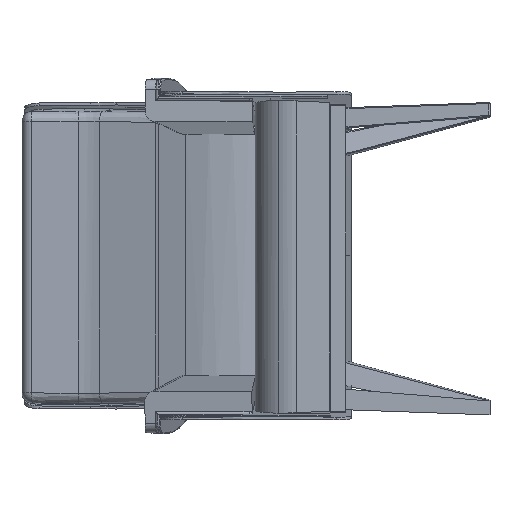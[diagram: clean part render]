
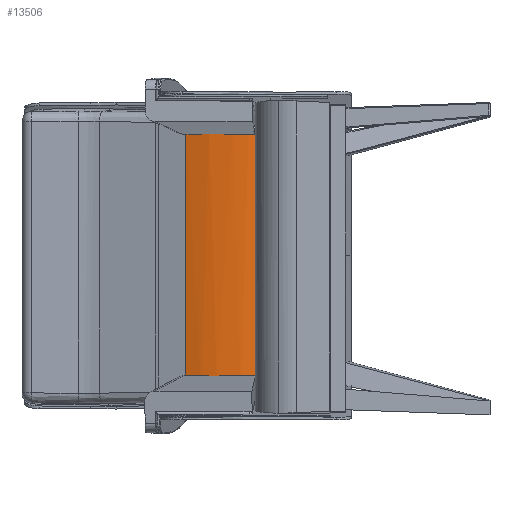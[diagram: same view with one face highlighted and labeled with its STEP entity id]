
A CAD part, left-side view. The second image highlights one B-rep face of the part: STEP entity #13506.
In plain terms, the highlighted cylindrical face has radius 279.532 mm (diameter 559.065 mm), a partial arc.
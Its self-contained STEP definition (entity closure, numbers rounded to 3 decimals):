
#13498=AXIS2_PLACEMENT_3D('Cylinder Axis2P3D',#13495,#13496,#13497) ;
#11797=CARTESIAN_POINT('Vertex',(-433.081,-301.999,-241.456)) ;
#11823=CARTESIAN_POINT('Vertex',(-433.081,-301.999,245.195)) ;
#11826=CARTESIAN_POINT('Line Origine',(-433.081,-301.999,1.87)) ;
#12248=CARTESIAN_POINT('Vertex',(-426.451,-149.278,260.934)) ;
#12777=CARTESIAN_POINT('Control Point',(-433.081,-301.999,-241.456)) ;
#12778=CARTESIAN_POINT('Control Point',(-438.174,-280.593,-244.584)) ;
#12779=CARTESIAN_POINT('Control Point',(-442.449,-243.822,-249.26)) ;
#12780=CARTESIAN_POINT('Control Point',(-438.194,-192.172,-254.282)) ;
#12781=CARTESIAN_POINT('Control Point',(-431.116,-163.338,-256.367)) ;
#12782=CARTESIAN_POINT('Control Point',(-426.451,-149.278,-257.195)) ;
#12783=CARTESIAN_POINT('Vertex',(-426.451,-149.278,-257.195)) ;
#13223=CARTESIAN_POINT('Line Origine',(-426.451,-149.278,1.87)) ;
#13480=CARTESIAN_POINT('Control Point',(-426.451,-149.278,260.934)) ;
#13481=CARTESIAN_POINT('Control Point',(-433.448,-170.367,259.693)) ;
#13482=CARTESIAN_POINT('Control Point',(-440.877,-206.859,256.816)) ;
#13483=CARTESIAN_POINT('Control Point',(-441.025,-258.605,251.164)) ;
#13484=CARTESIAN_POINT('Control Point',(-436.476,-287.728,247.28)) ;
#13485=CARTESIAN_POINT('Control Point',(-433.081,-301.999,245.195)) ;
#13495=CARTESIAN_POINT('Axis2P3D Location',(-161.139,-237.3,1.87)) ;
#11827=DIRECTION('Vector Direction',(0.,0.,-1.)) ;
#13224=DIRECTION('Vector Direction',(0.,0.,-1.)) ;
#13496=DIRECTION('Axis2P3D Direction',(0.,0.,1.)) ;
#13497=DIRECTION('Axis2P3D XDirection',(-0.949,0.315,0.)) ;
#11828=VECTOR('Line Direction',#11827,1.) ;
#13225=VECTOR('Line Direction',#13224,1.) ;
#13501=ORIENTED_EDGE('',*,*,#11830,.F.) ;
#13502=ORIENTED_EDGE('',*,*,#13486,.F.) ;
#13503=ORIENTED_EDGE('',*,*,#13227,.T.) ;
#13504=ORIENTED_EDGE('',*,*,#12785,.F.) ;
#13506=ADVANCED_FACE('WING-S3-008_1\\Volumenk\X2\00F6\X0\rper4',(#13505),#13499,.T.) ;
#12776=B_SPLINE_CURVE_WITH_KNOTS('',3,(#12777,#12778,#12779,#12780,#12781,#12782),.UNSPECIFIED.,.F.,.U.,(4,1,1,4),(1.81,66.882,110.263,153.644),.UNSPECIFIED.) ;
#13479=B_SPLINE_CURVE_WITH_KNOTS('',3,(#13480,#13481,#13482,#13483,#13484,#13485),.UNSPECIFIED.,.F.,.U.,(4,1,1,4),(0.,65.073,108.455,151.837),.UNSPECIFIED.) ;
#13499=CYLINDRICAL_SURFACE('generated cylinder',#13498,279.532) ;
#11830=EDGE_CURVE('',#11824,#11798,#11829,.T.) ;
#12785=EDGE_CURVE('',#11798,#12784,#12776,.T.) ;
#13227=EDGE_CURVE('',#12249,#12784,#13226,.T.) ;
#13486=EDGE_CURVE('',#12249,#11824,#13479,.T.) ;
#13500=EDGE_LOOP('',(#13501,#13502,#13503,#13504)) ;
#13505=FACE_OUTER_BOUND('',#13500,.T.) ;
#11829=LINE('Line',#11826,#11828) ;
#13226=LINE('Line',#13223,#13225) ;
#11798=VERTEX_POINT('',#11797) ;
#11824=VERTEX_POINT('',#11823) ;
#12249=VERTEX_POINT('',#12248) ;
#12784=VERTEX_POINT('',#12783) ;
